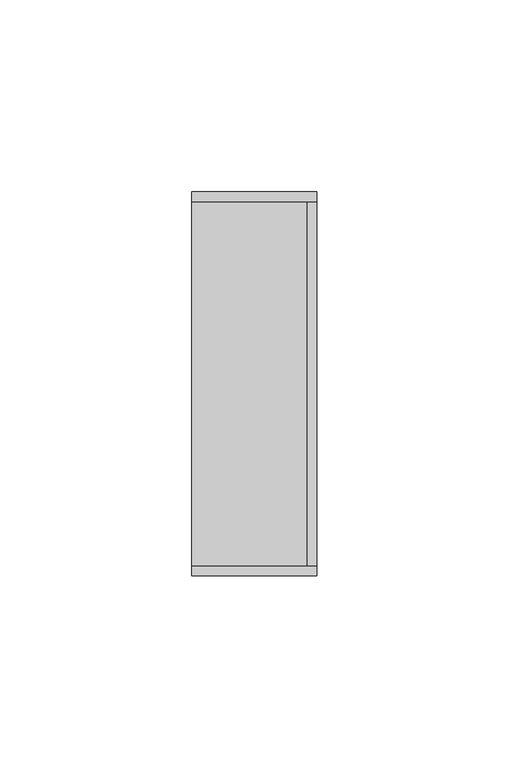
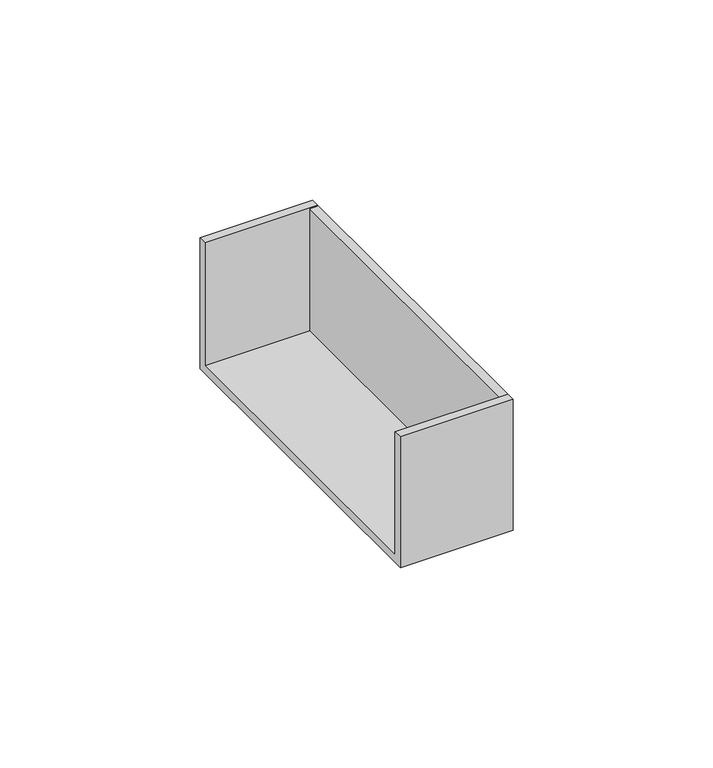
"""IFC4 building model written with IfcOpenShell, lengths in millimetres: cable carrier fitting geometry, КНС_ЗаглушкаТорцеваяLAN_ILC_DKC : Заглушка торцевая LAN_DKC."""

import ifcopenshell
import ifcopenshell.guid

model = None  # the IFC model being written
_history = None  # IfcOwnerHistory: only IFC2X3 demands one
_inside = {}  # id of a spatial element -> (the spatial element, [elements in it])
_under = {}  # id of a project, library or spatial element -> (it, [spatial elements below it])
_declared = {}  # id of a project -> (the project, [libraries it declares])
_typed = {}  # id of a type object -> (the type object, [elements of that type])
_made_of = {}  # id of a material, layer set ... -> (it, [elements and type objects made of it])


def new_model(schema):
    """Start an empty IFC model of exactly this schema.

    Asked for "IFC4X3", IfcOpenShell would pick the latest addendum, in which some entities
    have other attributes; the version numbers below select the first issue.
    IFC2X3 requires an IfcOwnerHistory on every rooted entity: one is made here for all.
    """
    global model, _history
    if schema == "IFC4X3":
        model = ifcopenshell.file(schema_version=(4, 3, 0, 0))
    else:
        model = ifcopenshell.file(schema=schema)
    _inside.clear()
    _under.clear()
    _declared.clear()
    _typed.clear()
    _made_of.clear()
    _history = None
    if model.schema == "IFC2X3":
        org = make("IfcOrganization", Name="unknown")
        user = make(
            "IfcPersonAndOrganization",
            ThePerson=make("IfcPerson", FamilyName="unknown"),
            TheOrganization=org,
        )
        app = make(
            "IfcApplication",
            ApplicationDeveloper=org,
            Version="unknown",
            ApplicationFullName="unknown",
            ApplicationIdentifier="unknown",
        )
        _history = make(
            "IfcOwnerHistory",
            OwningUser=user,
            OwningApplication=app,
            ChangeAction="ADDED",
            CreationDate=0,
        )
    return model


def make(cls, **values):
    """One entity of the class cls with the attributes given. An attribute that is None is left unset."""
    return model.create_entity(
        cls, **{name: value for name, value in values.items() if value is not None}
    )


def rooted(cls, **values):
    """An entity with a GlobalId (a new one), such as an element, a storey or a relation."""
    return make(cls, GlobalId=ifcopenshell.guid.new(), OwnerHistory=_history, **values)


def si_unit(unit_type, name, prefix=None):
    """IfcSIUnit, for example si_unit("LENGTHUNIT", "METRE", prefix="MILLI")."""
    return make("IfcSIUnit", UnitType=unit_type, Prefix=prefix, Name=name)


def assignment(units):
    """IfcUnitAssignment: the units of a project."""
    return None if units is None else make("IfcUnitAssignment", Units=units)


def point(xyz):
    """IfcCartesianPoint."""
    return None if xyz is None else make("IfcCartesianPoint", Coordinates=xyz)


def direction(xyz):
    """IfcDirection."""
    return None if xyz is None else make("IfcDirection", DirectionRatios=xyz)


def frame(location, z_axis=None, x_axis=None):
    """IfcAxis2Placement3D, a coordinate frame: its origin and axes. An axis left out is left unset."""
    return make(
        "IfcAxis2Placement3D",
        Location=point(location),
        Axis=direction(z_axis),
        RefDirection=direction(x_axis),
    )


def origin():
    """The frame at (0, 0, 0) with its axes left unset."""
    return frame((0.0, 0.0, 0.0))


def place(relative_to, where):
    """IfcLocalPlacement: puts the frame where relative to a parent placement (None: the world)."""
    return make(
        "IfcLocalPlacement", PlacementRelTo=relative_to, RelativePlacement=where
    )


def context(
    kind, dimensions, precision=None, world=None, true_north=None, identifier=None
):
    """IfcGeometricRepresentationContext, for example the 3D "Model" context."""
    return make(
        "IfcGeometricRepresentationContext",
        ContextIdentifier=identifier,
        ContextType=kind,
        CoordinateSpaceDimension=dimensions,
        Precision=precision,
        WorldCoordinateSystem=world,
        TrueNorth=true_north,
    )


def project(units=None, contexts=None):
    """IfcProject with its units and contexts."""
    return rooted(
        "IfcProject",
        Name="project",
        RepresentationContexts=contexts,
        UnitsInContext=assignment(units),
    )


def spatial(cls, under=None, at=None, **own):
    """A site, building, storey or space (cls), placed at a placement, below another one or the project."""
    s = rooted(cls, ObjectPlacement=at, **own)
    if under is not None:
        _under.setdefault(under.id(), (under, []))[1].append(s)
    return s


def polyline(points):
    """IfcPolyline through the points."""
    return make("IfcPolyline", Points=[point(p) for p in points])


def outline(outer, holes=None, kind="AREA"):
    """IfcArbitraryClosedProfileDef: a profile drawn as a closed curve; with holes, ...WithVoids."""
    if holes is None:
        return make("IfcArbitraryClosedProfileDef", ProfileType=kind, OuterCurve=outer)
    return make(
        "IfcArbitraryProfileDefWithVoids",
        ProfileType=kind,
        OuterCurve=outer,
        InnerCurves=holes,
    )


def extrude(swept, where, along, depth):
    """IfcExtrudedAreaSolid: the profile swept, set in the frame where, extruded along a direction by depth."""
    return make(
        "IfcExtrudedAreaSolid",
        SweptArea=swept,
        Position=where,
        ExtrudedDirection=direction(along),
        Depth=depth,
    )


def shape(context_of_items, identifier, shape_type, items):
    """IfcShapeRepresentation: the items that make up one representation, for example the "Body"."""
    return make(
        "IfcShapeRepresentation",
        ContextOfItems=context_of_items,
        RepresentationIdentifier=identifier,
        RepresentationType=shape_type,
        Items=items,
    )


def source(mapping_origin, context_of_items, identifier, shape_type, items):
    """IfcRepresentationMap: a shape defined once, which mapped items show again and again."""
    return make(
        "IfcRepresentationMap",
        MappingOrigin=mapping_origin,
        MappedRepresentation=shape(context_of_items, identifier, shape_type, items),
    )


def transform(
    local_origin,
    x_axis=None,
    y_axis=None,
    z_axis=None,
    scale=None,
    scale2=None,
    scale3=None,
    uniform=True,
):
    """IfcCartesianTransformationOperator3D, or its non-uniform kind. x_axis, y_axis, z_axis: its Axis1, 2, 3."""
    if uniform:
        return make(
            "IfcCartesianTransformationOperator3D",
            Axis1=direction(x_axis),
            Axis2=direction(y_axis),
            LocalOrigin=point(local_origin),
            Scale=scale,
            Axis3=direction(z_axis),
        )
    return make(
        "IfcCartesianTransformationOperator3DnonUniform",
        Axis1=direction(x_axis),
        Axis2=direction(y_axis),
        LocalOrigin=point(local_origin),
        Scale=scale,
        Axis3=direction(z_axis),
        Scale2=scale2,
        Scale3=scale3,
    )


def mapped(mapping_source, mapping_target):
    """IfcMappedItem: shows the shape of a source again, moved by a transform."""
    return make(
        "IfcMappedItem", MappingSource=mapping_source, MappingTarget=mapping_target
    )


def made_of(thing, what):
    """Note that an element or type object is made of a material, layer set ...; save() writes the relation."""
    if what is not None:
        _made_of.setdefault(what.id(), (what, []))[1].append(thing)
    return thing


def element(
    cls,
    number,
    at=None,
    inside=None,
    cuts=None,
    type_object=None,
    material=None,
    context=None,
    identifier="Body",
    shape_type=None,
    held_by="IfcProductDefinitionShape",
    body=None,
    shapes=None,
    **own,
):
    """One element of the class cls, such as IfcWall. Its Tag is "e" and its number.

    at: its placement. inside: the storey or other place that contains it. cuts: it is an
    opening in that element (IfcRelVoidsElement). A single representation is given by context,
    identifier, shape_type and body (its items); several are given by shapes. held_by: the class
    of the entity that holds the representations. save() writes the other relations.
    """
    e = rooted(cls, Tag="e%d" % number, ObjectPlacement=at, **own)
    if body is not None:
        shapes = [shape(context, identifier, shape_type, body)]
    if shapes is not None:
        e.Representation = make(held_by, Representations=shapes)
    if inside is not None:
        _inside.setdefault(inside.id(), (inside, []))[1].append(e)
    if cuts is not None:
        rooted(
            "IfcRelVoidsElement", RelatingBuildingElement=cuts, RelatedOpeningElement=e
        )
    if type_object is not None:
        _typed.setdefault(type_object.id(), (type_object, []))[1].append(e)
    return made_of(e, material)


def aggregate(whole, parts):
    """IfcRelAggregates: a whole, such as a stair, and the parts it consists of."""
    return rooted("IfcRelAggregates", RelatingObject=whole, RelatedObjects=parts)


def save(model, path):
    """Write the relations noted so far, then the file.

    IfcRelAggregates (storeys below a building ...), IfcRelContainedInSpatialStructure (elements
    in a storey), IfcRelDefinesByType, IfcRelAssociatesMaterial and IfcRelDeclares: one each for
    every whole, place, type object, material and project.
    """
    for whole, parts in _under.values():
        aggregate(whole, parts)
    for where, things in _inside.values():
        rooted(
            "IfcRelContainedInSpatialStructure",
            RelatedElements=things,
            RelatingStructure=where,
        )
    for kind, things in _typed.values():
        rooted("IfcRelDefinesByType", RelatedObjects=things, RelatingType=kind)
    for what, things in _made_of.values():
        rooted("IfcRelAssociatesMaterial", RelatedObjects=things, RelatingMaterial=what)
    for by, libraries in _declared.values():
        rooted("IfcRelDeclares", RelatingContext=by, RelatedDefinitions=libraries)
    model.write(path)


def cable_carrier_fitting_d7720b8f(model_context):
    return source(origin(), model_context, "Body", "SweptSolid", [
        extrude(outline(polyline([(50.0, -20.0), (-50.0, -20.0), (-50.0, 20.0), (-47.5, 20.0), (-47.5, -17.5), (47.5, -17.5), (47.5, 20.0), (50.0, 20.0), (50.0, -20.0)])), frame((-32.5, 0.0, 0.0), z_axis=(1.0, 0.0, 0.0), x_axis=(0.0, 1.0, 0.0)), (0.0, 0.0, 1.0), 32.5),
        extrude(outline(polyline([(0.0, 47.5), (0.0, -47.5), (-2.5, -47.5), (-2.5, 47.5), (0.0, 47.5)])), frame((0.0, 0.0, -20.0), z_axis=(0.0, 0.0, 1.0), x_axis=(1.0, 0.0, 0.0)), (0.0, 0.0, 1.0), 40.0),
    ])


if __name__ == "__main__":
    model = new_model("IFC4")
    model_context = context("Model", 3, world=origin())
    ifc_project = project(units=[si_unit("LENGTHUNIT", "METRE", prefix="MILLI")], contexts=[model_context])
    site = spatial("IfcSite", under=ifc_project)
    building = spatial("IfcBuilding", under=site)
    placement = place(None, origin())
    cable_carrier_fitting_shape = cable_carrier_fitting_d7720b8f(model_context)
    element("IfcCableCarrierFitting", 1, ObjectType="КНС_ЗаглушкаТорцеваяLAN_ILC_DKC : Заглушка торцевая LAN_DKC", at=placement, inside=building, context=model_context, shape_type="MappedRepresentation", body=[
        mapped(cable_carrier_fitting_shape, transform((0.0, 0.0, 0.0), x_axis=(1.0, 0.0, 0.0), y_axis=(0.0, 1.0, 0.0), z_axis=(0.0, 0.0, 1.0))),
    ])
    save(model, "model.ifc")
